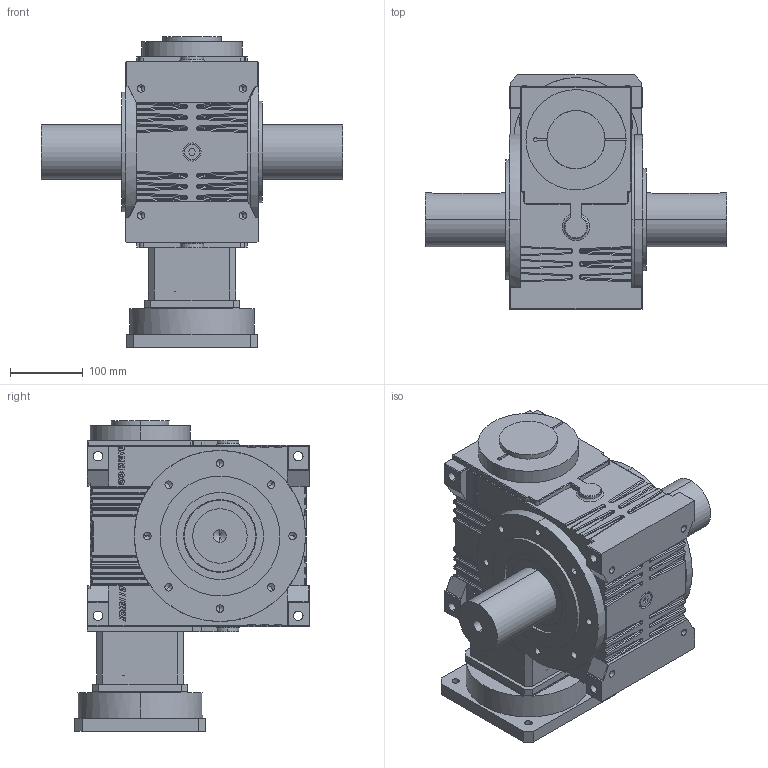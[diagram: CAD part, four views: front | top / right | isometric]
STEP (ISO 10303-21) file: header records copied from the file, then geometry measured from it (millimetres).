
FILE_DESCRIPTION (( 'STEP AP214' ), '1' );
FILE_NAME ('JDLB110-(5~90)-AB-35-114.3-200-M12.STEP', '2022-04-02T10:52:39', ( '' ), ( '' ), 'SwSTEP 2.0', 'SolidWorks 2018', '' );
FILE_SCHEMA (( 'AUTOMOTIVE_DESIGN' ));
Length unit declared in the file: millimetre
Products named in the file (6): JDLB110-(5~90)-AB-35-114.3-200-M12; 联轴器BD68-73.3-32-35锁紧; JDLB110-AB妗陑粣朴75-115; ST180-114.3-200-M12侜督楊擘諉諳; JDLB110-ST130输入法兰; JDLB110-CR眊极
Assembly tree (5 placements, depth 2):
  JDLB110-(5~90)-AB-35-114.3-200-M12
    JDLB110-CR眊极
    JDLB110-AB妗陑粣朴75-115
    JDLB110-ST130输入法兰
    ST180-114.3-200-M12侜督楊擘諉諳
    联轴器BD68-73.3-32-35锁紧
Bounding box: 416 x 323 x 427.74 mm (x, y, z)
Volume: 16304158.6 mm3; surface area: 928696.7 mm2
Topology: 15 solids, 15 shells, 1822 faces, 4588 edges, 2798 vertices
Faces by surface type: plane 788, cylinder 635, bspline 124, torus 100, cone 93, sphere 82
Entity records: 66208 total; most frequent: CARTESIAN_POINT 19260, ORIENTED_EDGE 8888, DIRECTION 8609, EDGE_CURVE 4444, AXIS2_PLACEMENT_3D 3074, VERTEX_POINT 2798, VECTOR 2461, LINE 2461
